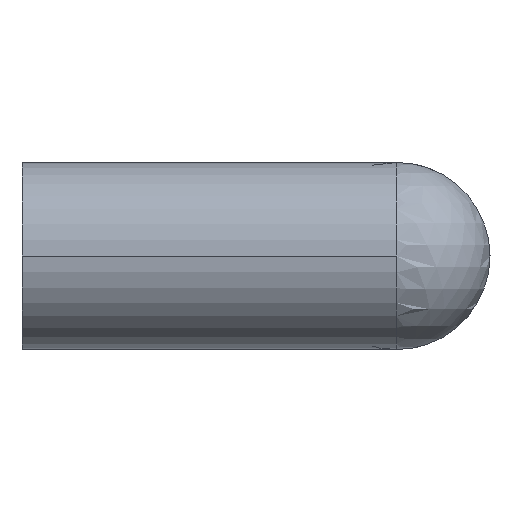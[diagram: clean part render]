
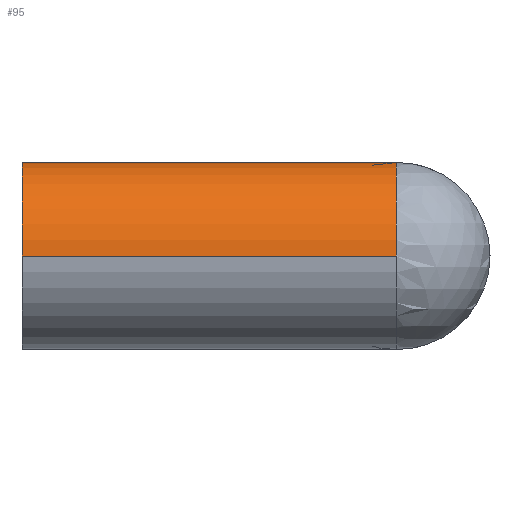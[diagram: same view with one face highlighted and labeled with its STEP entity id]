
A CAD part, left-side view. The second image highlights one B-rep face of the part: STEP entity #95.
In plain terms, the highlighted cylindrical face has radius 6 mm (diameter 12 mm), a partial arc.
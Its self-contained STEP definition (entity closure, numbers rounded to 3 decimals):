
#95 = ADVANCED_FACE( '', ( #250 ), #251, .T. );
#115 = VERTEX_POINT( '', #275 );
#117 = VERTEX_POINT( '', #277 );
#123 = EDGE_CURVE( '', #145, #115, #283, .T. );
#135 = EDGE_CURVE( '', #169, #139, #296, .T. );
#139 = VERTEX_POINT( '', #301 );
#145 = VERTEX_POINT( '', #307 );
#153 = EDGE_CURVE( '', #139, #117, #315, .T. );
#163 = EDGE_CURVE( '', #115, #117, #327, .T. );
#169 = VERTEX_POINT( '', #333 );
#223 = EDGE_CURVE( '', #169, #145, #393, .T. );
#250 = FACE_OUTER_BOUND( '', #412, .T. );
#251 = CYLINDRICAL_SURFACE( '', #413, 6. );
#275 = CARTESIAN_POINT( '', ( 6., 0., 0. ) );
#277 = CARTESIAN_POINT( '', ( 6., -18., 0. ) );
#283 = CIRCLE( '', #452, 6. );
#296 = CIRCLE( '', #469, 6. );
#301 = CARTESIAN_POINT( '', ( 0., -24., 6. ) );
#307 = CARTESIAN_POINT( '', ( -6., 0., 0. ) );
#315 = ELLIPSE( '', #493, 8.485, 6. );
#327 = LINE( '', #508, #509 );
#333 = CARTESIAN_POINT( '', ( -6., -24., 0. ) );
#393 = LINE( '', #594, #595 );
#412 = EDGE_LOOP( '', ( #616, #617, #618, #619, #620 ) );
#413 = AXIS2_PLACEMENT_3D( '', #621, #622, #623 );
#452 = AXIS2_PLACEMENT_3D( '', #657, #658, #659 );
#469 = AXIS2_PLACEMENT_3D( '', #671, #672, #673 );
#493 = AXIS2_PLACEMENT_3D( '', #691, #692, #693 );
#508 = CARTESIAN_POINT( '', ( 6., 0., 0. ) );
#509 = VECTOR( '', #716, 1. );
#594 = CARTESIAN_POINT( '', ( -6., 0., 0. ) );
#595 = VECTOR( '', #793, 1. );
#616 = ORIENTED_EDGE( '', *, *, #163, .F. );
#617 = ORIENTED_EDGE( '', *, *, #123, .F. );
#618 = ORIENTED_EDGE( '', *, *, #223, .F. );
#619 = ORIENTED_EDGE( '', *, *, #135, .T. );
#620 = ORIENTED_EDGE( '', *, *, #153, .T. );
#621 = CARTESIAN_POINT( '', ( 0., 0., 0. ) );
#622 = DIRECTION( '', ( 0., 1., 0. ) );
#623 = DIRECTION( '', ( 1., 0., 0. ) );
#657 = CARTESIAN_POINT( '', ( 0., 0., 0. ) );
#658 = DIRECTION( '', ( 0., 1., 0. ) );
#659 = DIRECTION( '', ( 1., 0., 0. ) );
#671 = CARTESIAN_POINT( '', ( 0., -24., 0. ) );
#672 = DIRECTION( '', ( 0., 1., 0. ) );
#673 = DIRECTION( '', ( 1., 0., 0. ) );
#691 = CARTESIAN_POINT( '', ( 0., -24., 0. ) );
#692 = DIRECTION( '', ( -0.707, 0.707, 0. ) );
#693 = DIRECTION( '', ( 0.707, 0.707, 0. ) );
#716 = DIRECTION( '', ( 0., -1., 0. ) );
#793 = DIRECTION( '', ( 0., 1., 0. ) );
